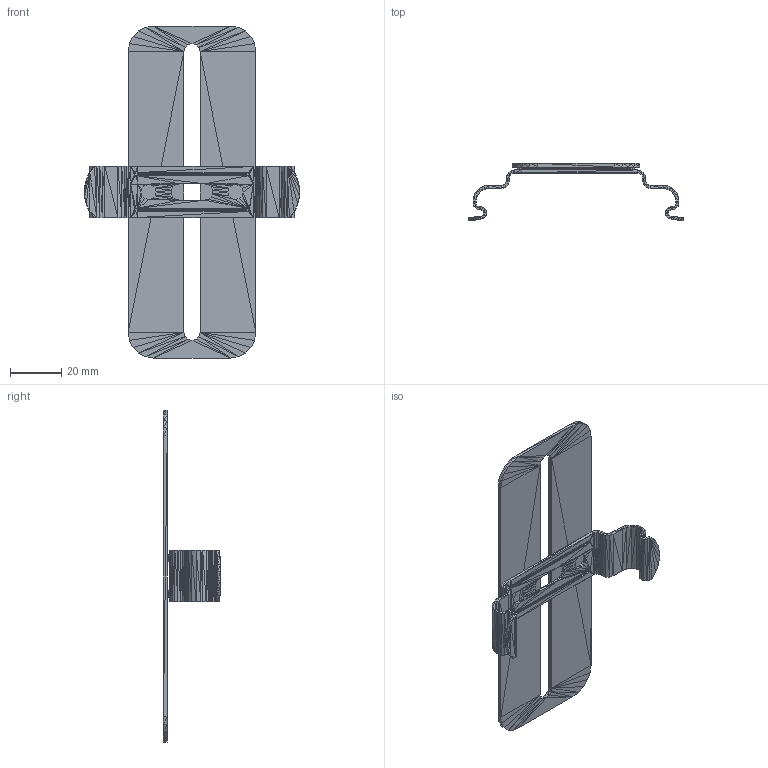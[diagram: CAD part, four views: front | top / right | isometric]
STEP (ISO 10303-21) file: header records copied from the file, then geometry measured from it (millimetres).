
FILE_DESCRIPTION((''),'2;1');
FILE_NAME('043432', '2025-07-25T09:08:57', (''), (''), 'ImageToStl.com STEP Converter','', '');
FILE_SCHEMA(('AUTOMOTIVE_DESIGN_CC2'));
Length unit declared in the file: metre
Products named in the file (1): product0
Bounding box: 84.33 x 22.39 x 130 mm (x, y, z)
Surface area: 17374.1 mm2 (no closed solid volume)
Topology: 0 solids, 1824 shells, 1824 faces, 5472 edges, 908 vertices
Faces by surface type: plane 1824
Entity records: 41972 total; most frequent: DIRECTION 9122, ORIENTED_EDGE 5472, EDGE_CURVE 5472, LINE 5472, VECTOR 5472, AXIS2_PLACEMENT_3D 1825, FACE_SURFACE 1824, PLANE 1824
